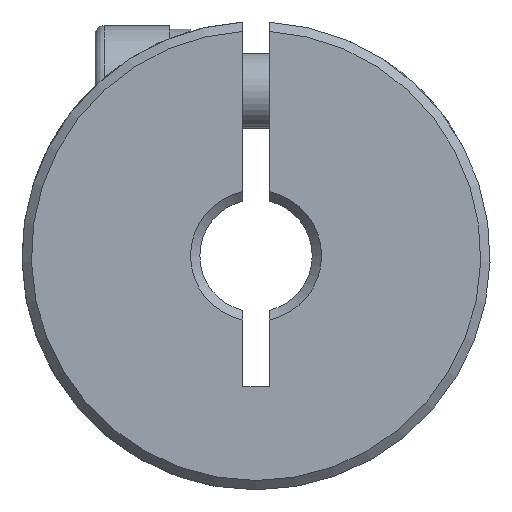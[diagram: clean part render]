
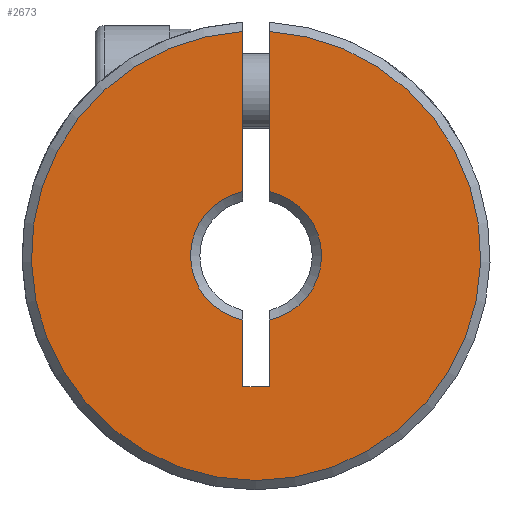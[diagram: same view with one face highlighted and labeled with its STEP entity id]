
A CAD part, front view. The second image highlights one B-rep face of the part: STEP entity #2673.
In plain terms, the highlighted planar face has unit normal (0, -1, 0).
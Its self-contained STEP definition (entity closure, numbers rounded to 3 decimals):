
#38 = DIRECTION ( 'NONE',  ( 0., 1., 0. ) ) ;
#112 = CARTESIAN_POINT ( 'NONE',  ( -0.7, 0.25, 3.429 ) ) ;
#119 = LINE ( 'NONE', #2221, #3063 ) ;
#166 = CIRCLE ( 'NONE', #1732, 12. ) ;
#263 = CARTESIAN_POINT ( 'NONE',  ( 0.7, 0.25, -3.429 ) ) ;
#311 = CARTESIAN_POINT ( 'NONE',  ( 12.5, 0.25, -50. ) ) ;
#347 = VERTEX_POINT ( 'NONE', #1070 ) ;
#363 = VECTOR ( 'NONE', #3271, 1000. ) ;
#365 = ORIENTED_EDGE ( 'NONE', *, *, #3470, .F. ) ;
#409 = AXIS2_PLACEMENT_3D ( 'NONE', #816, #2702, #1379 ) ;
#506 = EDGE_CURVE ( 'NONE', #2855, #547, #2783, .T. ) ;
#547 = VERTEX_POINT ( 'NONE', #112 ) ;
#611 = ORIENTED_EDGE ( 'NONE', *, *, #990, .F. ) ;
#714 = ORIENTED_EDGE ( 'NONE', *, *, #506, .T. ) ;
#796 = LINE ( 'NONE', #1198, #887 ) ;
#816 = CARTESIAN_POINT ( 'NONE',  ( 0., 0.25, 0. ) ) ;
#833 = CARTESIAN_POINT ( 'NONE',  ( 0., 0.25, 0. ) ) ;
#880 = LINE ( 'NONE', #1183, #3379 ) ;
#887 = VECTOR ( 'NONE', #3363, 1000. ) ;
#914 = CARTESIAN_POINT ( 'NONE',  ( -0.7, 0.25, -7. ) ) ;
#956 = VERTEX_POINT ( 'NONE', #2310 ) ;
#990 = EDGE_CURVE ( 'NONE', #3471, #2062, #796, .T. ) ;
#1070 = CARTESIAN_POINT ( 'NONE',  ( 0.7, 0.25, -7. ) ) ;
#1106 = ORIENTED_EDGE ( 'NONE', *, *, #2118, .F. ) ;
#1183 = CARTESIAN_POINT ( 'NONE',  ( 0.7, 0.25, -7. ) ) ;
#1198 = CARTESIAN_POINT ( 'NONE',  ( 0.7, 0.25, -7. ) ) ;
#1205 = ORIENTED_EDGE ( 'NONE', *, *, #3095, .F. ) ;
#1214 = EDGE_CURVE ( 'NONE', #1826, #2062, #166, .T. ) ;
#1331 = EDGE_CURVE ( 'NONE', #3471, #1726, #2983, .T. ) ;
#1379 = DIRECTION ( 'NONE',  ( 0., 0., 1. ) ) ;
#1428 = EDGE_LOOP ( 'NONE', ( #611, #2586, #2919, #1106, #365, #714, #1205, #1632 ) ) ;
#1464 = VECTOR ( 'NONE', #1897, 1000. ) ;
#1585 = DIRECTION ( 'NONE',  ( 0., 0., 1. ) ) ;
#1612 = DIRECTION ( 'NONE',  ( 0., 0., 1. ) ) ;
#1623 = CARTESIAN_POINT ( 'NONE',  ( -0.7, 0.25, -7. ) ) ;
#1631 = DIRECTION ( 'NONE',  ( 0., -1., 0. ) ) ;
#1632 = ORIENTED_EDGE ( 'NONE', *, *, #1214, .T. ) ;
#1723 = CARTESIAN_POINT ( 'NONE',  ( 0.7, 0.25, 3.429 ) ) ;
#1726 = VERTEX_POINT ( 'NONE', #263 ) ;
#1732 = AXIS2_PLACEMENT_3D ( 'NONE', #2142, #1631, #1585 ) ;
#1756 = FACE_OUTER_BOUND ( 'NONE', #1428, .T. ) ;
#1826 = VERTEX_POINT ( 'NONE', #2254 ) ;
#1897 = DIRECTION ( 'NONE',  ( 0., 0., -1. ) ) ;
#1940 = PLANE ( 'NONE',  #2611 ) ;
#2062 = VERTEX_POINT ( 'NONE', #2984 ) ;
#2118 = EDGE_CURVE ( 'NONE', #956, #347, #119, .T. ) ;
#2142 = CARTESIAN_POINT ( 'NONE',  ( 0., 0.25, 0. ) ) ;
#2221 = CARTESIAN_POINT ( 'NONE',  ( 0.7, 0.25, -7. ) ) ;
#2254 = CARTESIAN_POINT ( 'NONE',  ( -0.7, 0.25, 11.98 ) ) ;
#2310 = CARTESIAN_POINT ( 'NONE',  ( -0.7, 0.25, -7. ) ) ;
#2495 = DIRECTION ( 'NONE',  ( 0., 0., 1. ) ) ;
#2500 = EDGE_CURVE ( 'NONE', #347, #1726, #880, .T. ) ;
#2544 = CARTESIAN_POINT ( 'NONE',  ( -0.7, 0.25, -3.429 ) ) ;
#2586 = ORIENTED_EDGE ( 'NONE', *, *, #1331, .T. ) ;
#2611 = AXIS2_PLACEMENT_3D ( 'NONE', #311, #3220, #1612 ) ;
#2673 = ADVANCED_FACE ( 'NONE', ( #1756 ), #1940, .F. ) ;
#2702 = DIRECTION ( 'NONE',  ( 0., 1., 0. ) ) ;
#2783 = CIRCLE ( 'NONE', #409, 3.5 ) ;
#2855 = VERTEX_POINT ( 'NONE', #2544 ) ;
#2872 = LINE ( 'NONE', #914, #363 ) ;
#2913 = AXIS2_PLACEMENT_3D ( 'NONE', #833, #38, #2495 ) ;
#2919 = ORIENTED_EDGE ( 'NONE', *, *, #2500, .F. ) ;
#2983 = CIRCLE ( 'NONE', #2913, 3.5 ) ;
#2984 = CARTESIAN_POINT ( 'NONE',  ( 0.7, 0.25, 11.98 ) ) ;
#3063 = VECTOR ( 'NONE', #3286, 1000. ) ;
#3095 = EDGE_CURVE ( 'NONE', #1826, #547, #3205, .T. ) ;
#3145 = DIRECTION ( 'NONE',  ( 0., 0., 1. ) ) ;
#3205 = LINE ( 'NONE', #1623, #1464 ) ;
#3220 = DIRECTION ( 'NONE',  ( 0., 1., 0. ) ) ;
#3271 = DIRECTION ( 'NONE',  ( 0., 0., -1. ) ) ;
#3286 = DIRECTION ( 'NONE',  ( 1., 0., 0. ) ) ;
#3363 = DIRECTION ( 'NONE',  ( 0., 0., 1. ) ) ;
#3379 = VECTOR ( 'NONE', #3145, 1000. ) ;
#3470 = EDGE_CURVE ( 'NONE', #2855, #956, #2872, .T. ) ;
#3471 = VERTEX_POINT ( 'NONE', #1723 ) ;
